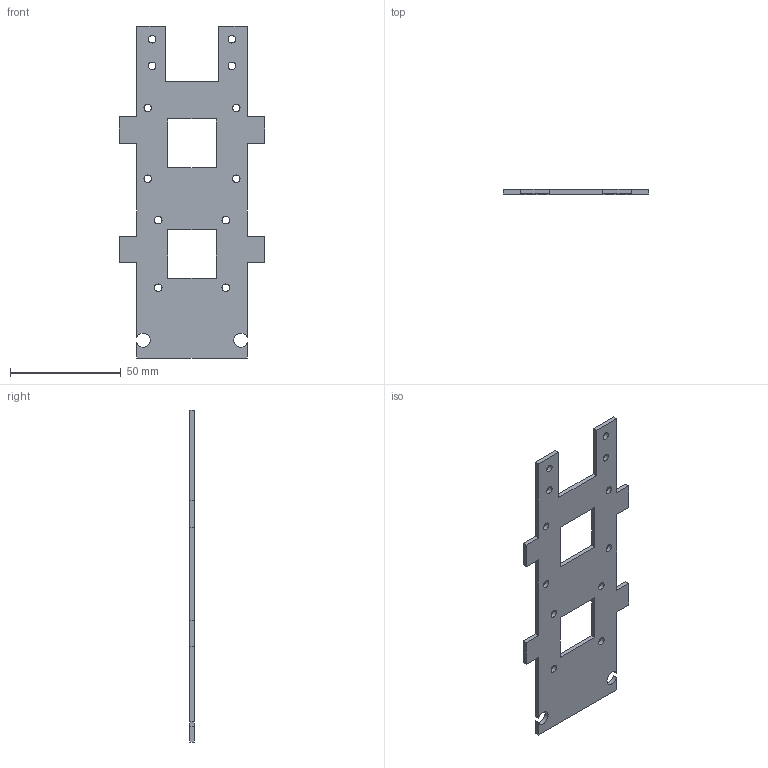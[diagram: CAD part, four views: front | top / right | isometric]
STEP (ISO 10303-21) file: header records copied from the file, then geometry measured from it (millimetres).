
FILE_DESCRIPTION(('Open CASCADE Model'),'2;1');
FILE_NAME('Open CASCADE Shape Model','2026-09-12T16:48:05',('Author'),( 'Open CASCADE'),'Open CASCADE STEP processor 7.9','Open CASCADE 7.9' ,'Unknown');
FILE_SCHEMA(('AUTOMOTIVE_DESIGN { 1 0 10303 214 1 1 1 1 }'));
Length unit declared in the file: millimetre
Products named in the file (1): Open CASCADE STEP translator 7.9 4
Bounding box: 65.6 x 2 x 150 mm (x, y, z)
Volume: 12267.4 mm3; surface area: 13963 mm2
Topology: 1 solids, 1 shells, 50 faces, 144 edges, 96 vertices
Faces by surface type: plane 36, cylinder 14
Full cylindrical faces by diameter (mm): 3.4 x12
Entity records: 3522 total; most frequent: CARTESIAN_POINT 631, DIRECTION 510, LINE 324, VECTOR 324, ORIENTED_EDGE 288, PCURVE 288, DEFINITIONAL_REPRESENTATION 288, EDGE_CURVE 144
